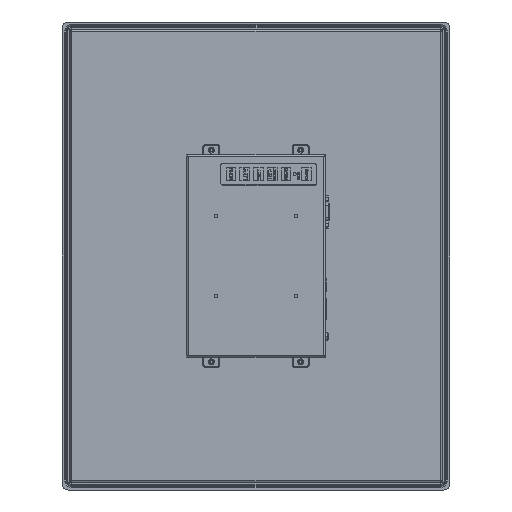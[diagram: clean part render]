
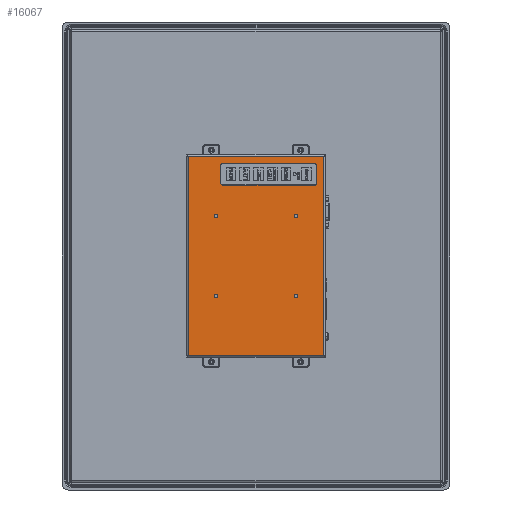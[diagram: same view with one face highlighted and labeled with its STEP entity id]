
A CAD part, left-side view. The second image highlights one B-rep face of the part: STEP entity #16067.
In plain terms, the highlighted planar face has unit normal (1, 0, 0).
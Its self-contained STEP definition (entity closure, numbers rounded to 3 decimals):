
#3389=DIRECTION('',(0.,0.,1.));
#3390=VECTOR('',#3389,187.2);
#3391=CARTESIAN_POINT('',(-43.2,-63.6,-93.6));
#3392=LINE('',#3391,#3390);
#3409=DIRECTION('',(0.,-1.,0.));
#3410=VECTOR('',#3409,127.2);
#3411=CARTESIAN_POINT('',(-43.2,63.6,-93.6));
#3412=LINE('',#3411,#3410);
#3431=CARTESIAN_POINT('',(-43.2,37.5,37.5));
#3432=DIRECTION('',(-1.,0.,0.));
#3433=DIRECTION('',(0.,0.,-1.));
#3434=AXIS2_PLACEMENT_3D('',#3431,#3432,#3433);
#3436=CARTESIAN_POINT('',(-43.2,37.5,37.5));
#3437=DIRECTION('',(-1.,0.,0.));
#3438=DIRECTION('',(0.,0.,1.));
#3439=AXIS2_PLACEMENT_3D('',#3436,#3437,#3438);
#3441=CARTESIAN_POINT('',(-43.2,37.5,-37.5));
#3442=DIRECTION('',(-1.,0.,0.));
#3443=DIRECTION('',(0.,0.,-1.));
#3444=AXIS2_PLACEMENT_3D('',#3441,#3442,#3443);
#3446=CARTESIAN_POINT('',(-43.2,37.5,-37.5));
#3447=DIRECTION('',(-1.,0.,0.));
#3448=DIRECTION('',(0.,0.,1.));
#3449=AXIS2_PLACEMENT_3D('',#3446,#3447,#3448);
#3451=CARTESIAN_POINT('',(-43.2,-37.5,-37.5));
#3452=DIRECTION('',(-1.,0.,0.));
#3453=DIRECTION('',(0.,0.,-1.));
#3454=AXIS2_PLACEMENT_3D('',#3451,#3452,#3453);
#3456=CARTESIAN_POINT('',(-43.2,-37.5,-37.5));
#3457=DIRECTION('',(-1.,0.,0.));
#3458=DIRECTION('',(0.,0.,1.));
#3459=AXIS2_PLACEMENT_3D('',#3456,#3457,#3458);
#3461=CARTESIAN_POINT('',(-43.2,-37.5,37.5));
#3462=DIRECTION('',(-1.,0.,0.));
#3463=DIRECTION('',(0.,0.,-1.));
#3464=AXIS2_PLACEMENT_3D('',#3461,#3462,#3463);
#3466=CARTESIAN_POINT('',(-43.2,-37.5,37.5));
#3467=DIRECTION('',(-1.,0.,0.));
#3468=DIRECTION('',(0.,0.,1.));
#3469=AXIS2_PLACEMENT_3D('',#3466,#3467,#3468);
#3471=CARTESIAN_POINT('',(-43.2,31.17,84.77));
#3472=DIRECTION('',(-1.,0.,0.));
#3473=DIRECTION('',(0.,0.,1.));
#3474=AXIS2_PLACEMENT_3D('',#3471,#3472,#3473);
#3476=CARTESIAN_POINT('',(-43.2,-54.77,84.77));
#3477=DIRECTION('',(-1.,0.,0.));
#3478=DIRECTION('',(0.,-1.,0.));
#3479=AXIS2_PLACEMENT_3D('',#3476,#3477,#3478);
#3481=CARTESIAN_POINT('',(-43.2,-54.77,68.83));
#3482=DIRECTION('',(-1.,0.,0.));
#3483=DIRECTION('',(0.,0.,-1.));
#3484=AXIS2_PLACEMENT_3D('',#3481,#3482,#3483);
#3486=CARTESIAN_POINT('',(-43.2,31.17,68.83));
#3487=DIRECTION('',(-1.,0.,0.));
#3488=DIRECTION('',(0.,1.,0.));
#3489=AXIS2_PLACEMENT_3D('',#3486,#3487,#3488);
#3502=DIRECTION('',(0.,1.,0.));
#3503=VECTOR('',#3502,127.2);
#3504=CARTESIAN_POINT('',(-43.2,-63.6,93.6));
#3505=LINE('',#3504,#3503);
#3609=DIRECTION('',(0.,0.,-1.));
#3610=VECTOR('',#3609,187.2);
#3611=CARTESIAN_POINT('',(-43.2,63.6,93.6));
#3612=LINE('',#3611,#3610);
#4013=DIRECTION('',(0.,0.,1.));
#4014=VECTOR('',#4013,15.94);
#4015=CARTESIAN_POINT('',(-43.2,33.4,68.83));
#4016=LINE('',#4015,#4014);
#4029=DIRECTION('',(0.,-1.,0.));
#4030=VECTOR('',#4029,85.94);
#4031=CARTESIAN_POINT('',(-43.2,31.17,66.6));
#4032=LINE('',#4031,#4030);
#4045=DIRECTION('',(0.,0.,1.));
#4046=VECTOR('',#4045,15.94);
#4047=CARTESIAN_POINT('',(-43.2,-57.,68.83));
#4048=LINE('',#4047,#4046);
#4061=DIRECTION('',(0.,-1.,0.));
#4062=VECTOR('',#4061,85.94);
#4063=CARTESIAN_POINT('',(-43.2,31.17,87.));
#4064=LINE('',#4063,#4062);
#9328=CARTESIAN_POINT('',(-43.2,63.6,-93.6));
#9330=VERTEX_POINT('',#9328);
#9336=CARTESIAN_POINT('',(-43.2,-63.6,-93.6));
#9337=VERTEX_POINT('',#9336);
#9339=CARTESIAN_POINT('',(-43.2,-63.6,93.6));
#9340=VERTEX_POINT('',#9339);
#9341=CARTESIAN_POINT('',(-43.2,63.6,93.6));
#9342=VERTEX_POINT('',#9341);
#9343=CARTESIAN_POINT('',(-43.2,33.4,68.83));
#9344=CARTESIAN_POINT('',(-43.2,33.4,84.77));
#9345=VERTEX_POINT('',#9343);
#9346=VERTEX_POINT('',#9344);
#9347=CARTESIAN_POINT('',(-43.2,31.17,87.));
#9348=VERTEX_POINT('',#9347);
#9349=CARTESIAN_POINT('',(-43.2,-54.77,87.));
#9350=VERTEX_POINT('',#9349);
#9351=CARTESIAN_POINT('',(-43.2,-57.,84.77));
#9352=VERTEX_POINT('',#9351);
#9353=CARTESIAN_POINT('',(-43.2,-57.,68.83));
#9354=VERTEX_POINT('',#9353);
#9355=CARTESIAN_POINT('',(-43.2,-54.77,66.6));
#9356=VERTEX_POINT('',#9355);
#9357=CARTESIAN_POINT('',(-43.2,31.17,66.6));
#9358=VERTEX_POINT('',#9357);
#11665=CARTESIAN_POINT('',(-43.2,-37.5,-39.15));
#11666=VERTEX_POINT('',#11665);
#11667=CARTESIAN_POINT('',(-43.2,-37.5,-35.85));
#11668=VERTEX_POINT('',#11667);
#11681=CARTESIAN_POINT('',(-43.2,37.5,-39.15));
#11682=VERTEX_POINT('',#11681);
#11683=CARTESIAN_POINT('',(-43.2,37.5,-35.85));
#11684=VERTEX_POINT('',#11683);
#11697=CARTESIAN_POINT('',(-43.2,37.5,35.85));
#11698=VERTEX_POINT('',#11697);
#11699=CARTESIAN_POINT('',(-43.2,37.5,39.15));
#11700=VERTEX_POINT('',#11699);
#11713=CARTESIAN_POINT('',(-43.2,-37.5,35.85));
#11714=VERTEX_POINT('',#11713);
#11715=CARTESIAN_POINT('',(-43.2,-37.5,39.15));
#11716=VERTEX_POINT('',#11715);
#16012=CARTESIAN_POINT('',(-43.2,0.,0.));
#16013=DIRECTION('',(1.,0.,0.));
#16014=DIRECTION('',(0.,0.,-1.));
#16015=AXIS2_PLACEMENT_3D('',#16012,#16013,#16014);
#16016=PLANE('',#16015);
#16017=ORIENTED_EDGE('',*,*,#15996,.T.);
#16018=ORIENTED_EDGE('',*,*,#15853,.T.);
#16020=ORIENTED_EDGE('',*,*,#16019,.T.);
#16022=ORIENTED_EDGE('',*,*,#16021,.T.);
#16023=EDGE_LOOP('',(#16017,#16018,#16020,#16022));
#16024=FACE_OUTER_BOUND('',#16023,.F.);
#16026=ORIENTED_EDGE('',*,*,#16025,.F.);
#16028=ORIENTED_EDGE('',*,*,#16027,.F.);
#16029=EDGE_LOOP('',(#16026,#16028));
#16030=FACE_BOUND('',#16029,.F.);
#16032=ORIENTED_EDGE('',*,*,#16031,.F.);
#16034=ORIENTED_EDGE('',*,*,#16033,.F.);
#16035=EDGE_LOOP('',(#16032,#16034));
#16036=FACE_BOUND('',#16035,.F.);
#16038=ORIENTED_EDGE('',*,*,#16037,.F.);
#16040=ORIENTED_EDGE('',*,*,#16039,.F.);
#16041=EDGE_LOOP('',(#16038,#16040));
#16042=FACE_BOUND('',#16041,.F.);
#16044=ORIENTED_EDGE('',*,*,#16043,.F.);
#16046=ORIENTED_EDGE('',*,*,#16045,.F.);
#16047=EDGE_LOOP('',(#16044,#16046));
#16048=FACE_BOUND('',#16047,.F.);
#16050=ORIENTED_EDGE('',*,*,#16049,.T.);
#16052=ORIENTED_EDGE('',*,*,#16051,.F.);
#16054=ORIENTED_EDGE('',*,*,#16053,.T.);
#16056=ORIENTED_EDGE('',*,*,#16055,.F.);
#16058=ORIENTED_EDGE('',*,*,#16057,.F.);
#16060=ORIENTED_EDGE('',*,*,#16059,.F.);
#16062=ORIENTED_EDGE('',*,*,#16061,.F.);
#16064=ORIENTED_EDGE('',*,*,#16063,.F.);
#16065=EDGE_LOOP('',(#16050,#16052,#16054,#16056,#16058,#16060,#16062,#16064));
#16066=FACE_BOUND('',#16065,.F.);
#16067=ADVANCED_FACE('',(#16024,#16030,#16036,#16042,#16048,#16066),#16016,.T.);
#3435=CIRCLE('',#3434,1.65);
#3440=CIRCLE('',#3439,1.65);
#3445=CIRCLE('',#3444,1.65);
#3450=CIRCLE('',#3449,1.65);
#3455=CIRCLE('',#3454,1.65);
#3460=CIRCLE('',#3459,1.65);
#3465=CIRCLE('',#3464,1.65);
#3470=CIRCLE('',#3469,1.65);
#3475=CIRCLE('',#3474,2.23);
#3480=CIRCLE('',#3479,2.23);
#3485=CIRCLE('',#3484,2.23);
#3490=CIRCLE('',#3489,2.23);
#15853=EDGE_CURVE('',#9337,#9340,#3392,.T.);
#15996=EDGE_CURVE('',#9330,#9337,#3412,.T.);
#16019=EDGE_CURVE('',#9340,#9342,#3505,.T.);
#16021=EDGE_CURVE('',#9342,#9330,#3612,.T.);
#16025=EDGE_CURVE('',#11698,#11700,#3435,.T.);
#16027=EDGE_CURVE('',#11700,#11698,#3440,.T.);
#16031=EDGE_CURVE('',#11682,#11684,#3445,.T.);
#16033=EDGE_CURVE('',#11684,#11682,#3450,.T.);
#16037=EDGE_CURVE('',#11666,#11668,#3455,.T.);
#16039=EDGE_CURVE('',#11668,#11666,#3460,.T.);
#16043=EDGE_CURVE('',#11714,#11716,#3465,.T.);
#16045=EDGE_CURVE('',#11716,#11714,#3470,.T.);
#16049=EDGE_CURVE('',#9345,#9346,#4016,.T.);
#16051=EDGE_CURVE('',#9348,#9346,#3475,.T.);
#16053=EDGE_CURVE('',#9348,#9350,#4064,.T.);
#16055=EDGE_CURVE('',#9352,#9350,#3480,.T.);
#16057=EDGE_CURVE('',#9354,#9352,#4048,.T.);
#16059=EDGE_CURVE('',#9356,#9354,#3485,.T.);
#16061=EDGE_CURVE('',#9358,#9356,#4032,.T.);
#16063=EDGE_CURVE('',#9345,#9358,#3490,.T.);
